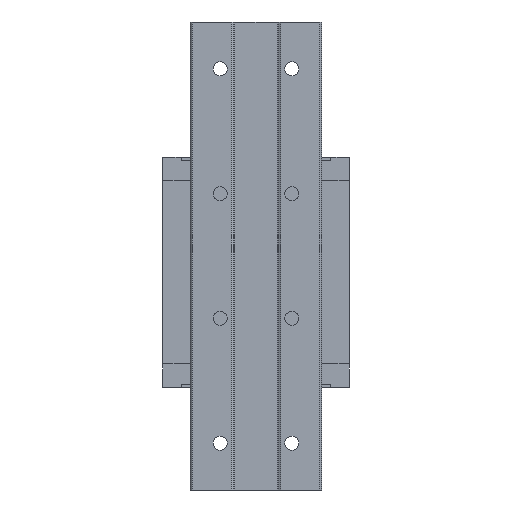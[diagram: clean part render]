
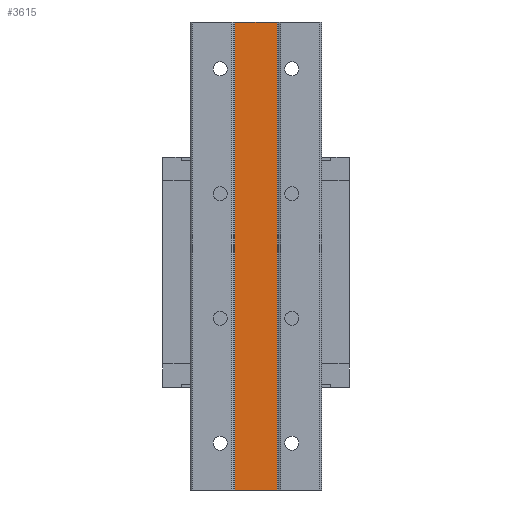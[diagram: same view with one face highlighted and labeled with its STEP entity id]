
A CAD part, front view. The second image highlights one B-rep face of the part: STEP entity #3615.
In plain terms, the highlighted planar face has unit normal (0, -1, 0).
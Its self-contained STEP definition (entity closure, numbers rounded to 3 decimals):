
#74 = LINE ( 'NONE', #11297, #8885 ) ;
#84 = CARTESIAN_POINT ( 'NONE',  ( -6.732, 0.5, 150. ) ) ;
#638 = LINE ( 'NONE', #4458, #7469 ) ;
#820 = LINE ( 'NONE', #3991, #4589 ) ;
#896 = PLANE ( 'NONE',  #8664 ) ;
#1040 = EDGE_CURVE ( 'NONE', #7453, #3594, #638, .T. ) ;
#2224 = DIRECTION ( 'NONE',  ( 0., 0., 1. ) ) ;
#3085 = VERTEX_POINT ( 'NONE', #84 ) ;
#3594 = VERTEX_POINT ( 'NONE', #7175 ) ;
#3615 = ADVANCED_FACE ( 'NONE', ( #13309 ), #896, .F. ) ;
#3878 = CARTESIAN_POINT ( 'NONE',  ( 6.732, 0.5, 0. ) ) ;
#3991 = CARTESIAN_POINT ( 'NONE',  ( 6.732, 0.5, 150. ) ) ;
#4073 = DIRECTION ( 'NONE',  ( 0., 0., 1. ) ) ;
#4458 = CARTESIAN_POINT ( 'NONE',  ( 6.732, 0.5, 0. ) ) ;
#4517 = ORIENTED_EDGE ( 'NONE', *, *, #5291, .T. ) ;
#4589 = VECTOR ( 'NONE', #11265, 1000. ) ;
#5048 = DIRECTION ( 'NONE',  ( -1., 0., 0. ) ) ;
#5159 = ORIENTED_EDGE ( 'NONE', *, *, #1040, .T. ) ;
#5291 = EDGE_CURVE ( 'NONE', #3594, #3085, #820, .T. ) ;
#7062 = DIRECTION ( 'NONE',  ( 0., 1., 0. ) ) ;
#7133 = VECTOR ( 'NONE', #7876, 1000. ) ;
#7175 = CARTESIAN_POINT ( 'NONE',  ( 6.732, 0.5, 150. ) ) ;
#7298 = ORIENTED_EDGE ( 'NONE', *, *, #8166, .F. ) ;
#7453 = VERTEX_POINT ( 'NONE', #10037 ) ;
#7469 = VECTOR ( 'NONE', #2224, 1000. ) ;
#7876 = DIRECTION ( 'NONE',  ( -1., 0., 0. ) ) ;
#8166 = EDGE_CURVE ( 'NONE', #8575, #3085, #74, .T. ) ;
#8575 = VERTEX_POINT ( 'NONE', #9972 ) ;
#8664 = AXIS2_PLACEMENT_3D ( 'NONE', #3878, #7062, #5048 ) ;
#8885 = VECTOR ( 'NONE', #4073, 1000. ) ;
#8949 = LINE ( 'NONE', #12041, #7133 ) ;
#9972 = CARTESIAN_POINT ( 'NONE',  ( -6.732, 0.5, 0. ) ) ;
#10037 = CARTESIAN_POINT ( 'NONE',  ( 6.732, 0.5, 0. ) ) ;
#11265 = DIRECTION ( 'NONE',  ( -1., 0., 0. ) ) ;
#11297 = CARTESIAN_POINT ( 'NONE',  ( -6.732, 0.5, 0. ) ) ;
#11389 = EDGE_LOOP ( 'NONE', ( #4517, #7298, #11429, #5159 ) ) ;
#11429 = ORIENTED_EDGE ( 'NONE', *, *, #12486, .F. ) ;
#12041 = CARTESIAN_POINT ( 'NONE',  ( 6.732, 0.5, 0. ) ) ;
#12486 = EDGE_CURVE ( 'NONE', #7453, #8575, #8949, .T. ) ;
#13309 = FACE_OUTER_BOUND ( 'NONE', #11389, .T. ) ;
